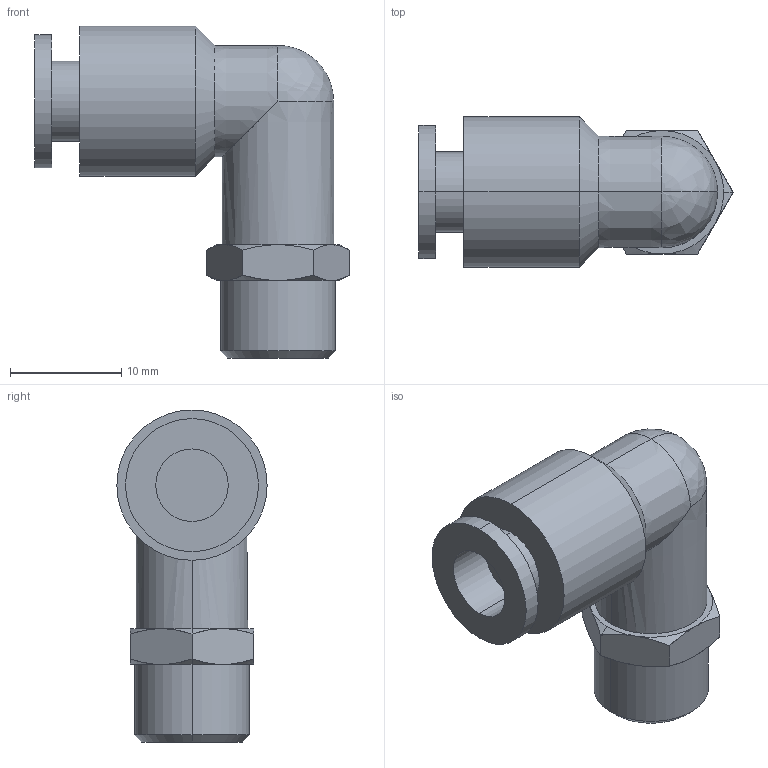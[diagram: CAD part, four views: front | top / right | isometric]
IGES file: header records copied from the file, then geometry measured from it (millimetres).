
Global section: file name: C:\Documents and Settings\Administrator\My Documents\PersonalProject\smcelbow.igs; native system: AutoDesk Inventor R2.0 ; preprocessor: AutoDesk Inventor Iges Exporter R2.0; author: No Author specified; organization: No Organization specified; date: 20020115.191815; units: inch
Bounding box: 28.33 x 13.54 x 29.91 mm (x, y, z)
Surface area: 2318.8 mm2 (no closed solid volume)
Topology: 0 solids, 0 shells, 55 faces, 224 edges, 222 vertices
Faces by surface type: revolution 40, bspline 15
